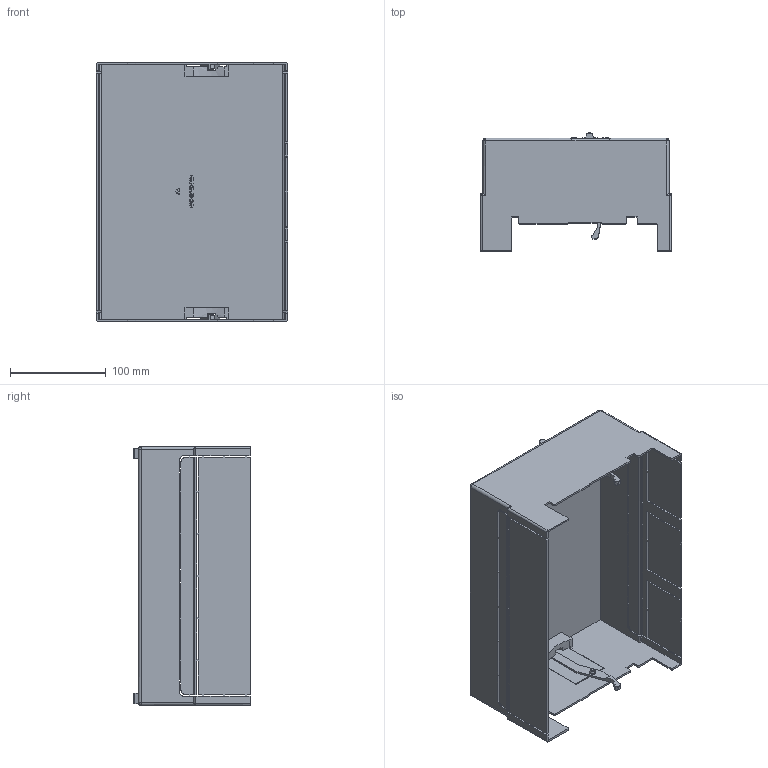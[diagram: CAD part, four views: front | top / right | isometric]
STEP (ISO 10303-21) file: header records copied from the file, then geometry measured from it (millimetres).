
FILE_DESCRIPTION (( 'STEP AP203' ), '1' );
FILE_NAME ('DN53757.STEP', '2025-10-31T07:21:46', ( '' ), ( '' ), 'SwSTEP 2.0', 'SolidWorks 2019', '' );
FILE_SCHEMA (( 'CONFIG_CONTROL_DESIGN' ));
Length unit declared in the file: millimetre
Products named in the file (1): DN53757
Bounding box: 199.5 x 123.02 x 270 mm (x, y, z)
Volume: 334935.8 mm3; surface area: 317160.8 mm2
Topology: 3 solids, 3 shells, 1067 faces, 3059 edges, 2017 vertices
Faces by surface type: plane 858, cylinder 175, sphere 16, cone 6, bspline 6, torus 6
Entity records: 36168 total; most frequent: CARTESIAN_POINT 8524, ORIENTED_EDGE 6118, DIRECTION 5059, EDGE_CURVE 3059, LINE 2477, VECTOR 2477, VERTEX_POINT 2017, AXIS2_PLACEMENT_3D 1291
